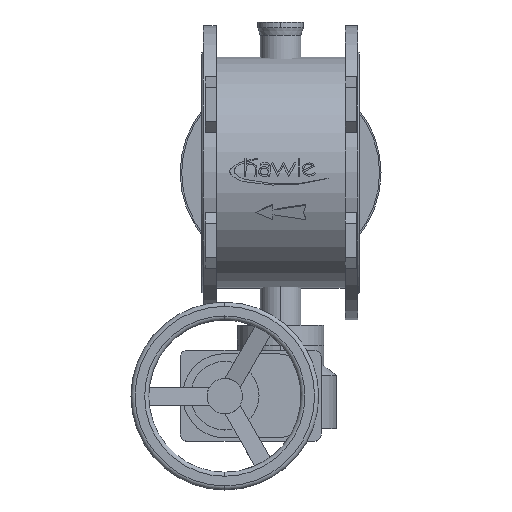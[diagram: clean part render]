
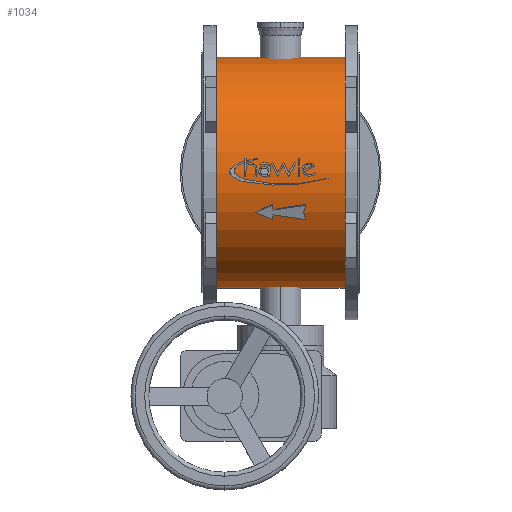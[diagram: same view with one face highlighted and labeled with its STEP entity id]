
A CAD part, top view. The second image highlights one B-rep face of the part: STEP entity #1034.
In plain terms, the highlighted cylindrical face has radius 228 mm (diameter 456 mm), a partial arc.
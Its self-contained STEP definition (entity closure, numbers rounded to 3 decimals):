
#1034=ADVANCED_FACE('',(#2222),#2223,.T.);
#2222=FACE_OUTER_BOUND('',#4022,.T.);
#2223=CYLINDRICAL_SURFACE('',#4023,228.0);
#4022=EDGE_LOOP('',(#5610,#5611,#5612,#5613));
#4023=AXIS2_PLACEMENT_3D('',#5614,#5615,#5616);
#5610=ORIENTED_EDGE('',*,*,#9377,.T.);
#5611=ORIENTED_EDGE('',*,*,#9378,.T.);
#5612=ORIENTED_EDGE('',*,*,#9379,.T.);
#5613=ORIENTED_EDGE('',*,*,#9380,.T.);
#5614=CARTESIAN_POINT('',(-282.0,0.,0.0));
#5615=DIRECTION('',(1.0,0.,0.0));
#5616=DIRECTION('',(0.,-1.0,0.0));
#9377=EDGE_CURVE('',#10958,#10959,#10960,.T.);
#9378=EDGE_CURVE('',#10959,#10961,#10962,.T.);
#9379=EDGE_CURVE('',#10961,#10963,#10964,.T.);
#9380=EDGE_CURVE('',#10963,#10958,#10965,.T.);
#10958=VERTEX_POINT('',#13174);
#10959=VERTEX_POINT('',#13175);
#10960=LINE('',#13176,#13177);
#10961=VERTEX_POINT('',#13178);
#10962=CIRCLE('',#13179,228.0);
#10963=VERTEX_POINT('',#13180);
#10964=LINE('',#13181,#13182);
#10965=CIRCLE('',#13183,228.0);
#13174=CARTESIAN_POINT('',(-282.0,-228.0,0.0));
#13175=CARTESIAN_POINT('',(-28.0,-228.0,0.0));
#13176=CARTESIAN_POINT('',(-282.0,-228.0,0.));
#13177=VECTOR('',#15823,1.0);
#13178=CARTESIAN_POINT('',(-28.0,228.0,0.));
#13179=AXIS2_PLACEMENT_3D('',#15824,#15825,#15826);
#13180=CARTESIAN_POINT('',(-282.0,228.0,0.));
#13181=CARTESIAN_POINT('',(-282.0,228.0,0.));
#13182=VECTOR('',#15827,1.0);
#13183=AXIS2_PLACEMENT_3D('',#15828,#15829,#15830);
#15823=DIRECTION('',(1.0,0.,0.0));
#15824=CARTESIAN_POINT('',(-28.0,0.,0.0));
#15825=DIRECTION('',(-1.0,0.,0.0));
#15826=DIRECTION('',(0.,-1.0,0.0));
#15827=DIRECTION('',(-1.0,0.,-0.0));
#15828=CARTESIAN_POINT('',(-282.0,0.,0.0));
#15829=DIRECTION('',(1.0,0.,0.0));
#15830=DIRECTION('',(0.,-1.0,0.0));
